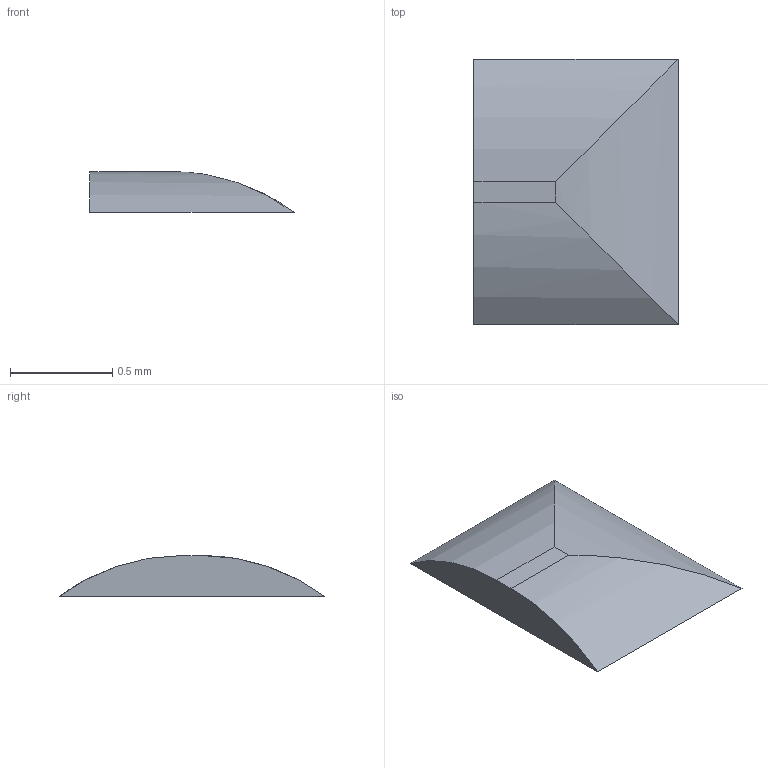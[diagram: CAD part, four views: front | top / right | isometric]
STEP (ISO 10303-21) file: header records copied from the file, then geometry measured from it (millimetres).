
FILE_DESCRIPTION(/* description */ ('STEP AP242 Edition 2','CAx-IF Rec.Pracs.---Representation and Presentation of Product Manufacturing Information (PMI)---4.0---2014-10-13','CAx-IF Rec.Pracs.---3D Tessellated Geometry---0.4---2014-09-14','2;1','CAx-IF Rec.Pracs.---User Defined Attributes---1.5---2016-08-15'),/* implementation_level */ '2;1');
FILE_NAME(/* name */ 'Drone Layout - Surface 182',/* time_stamp */ '2026-10-04T22:22:52Z',/* author */ (''),/* organization */ (''),/* preprocessor_version */ 'ST-DEVELOPER v20',/* originating_system */ 'ONSHAPE BY PTC INC, 1.221',/* authorisation */ ' ');
FILE_SCHEMA (('AP242_MANAGED_MODEL_BASED_3D_ENGINEERING_MIM_LF { 1 0 10303 442 3 1 4 }'));
Length unit declared in the file: metre
Products named in the file (1): Res:1__pad (1)_2
Bounding box: 1 x 1.3 x 0.2 mm (x, y, z)
Volume: 0.2 mm3; surface area: 2.9 mm2
Topology: 1 solids, 1 shells, 6 faces, 12 edges, 8 vertices
Faces by surface type: cylinder 3, plane 3
Entity records: 173 total; most frequent: CARTESIAN_POINT 33, DIRECTION 26, ORIENTED_EDGE 24, EDGE_CURVE 12, AXIS2_PLACEMENT_3D 9, LINE 8, VECTOR 8, VERTEX_POINT 8
